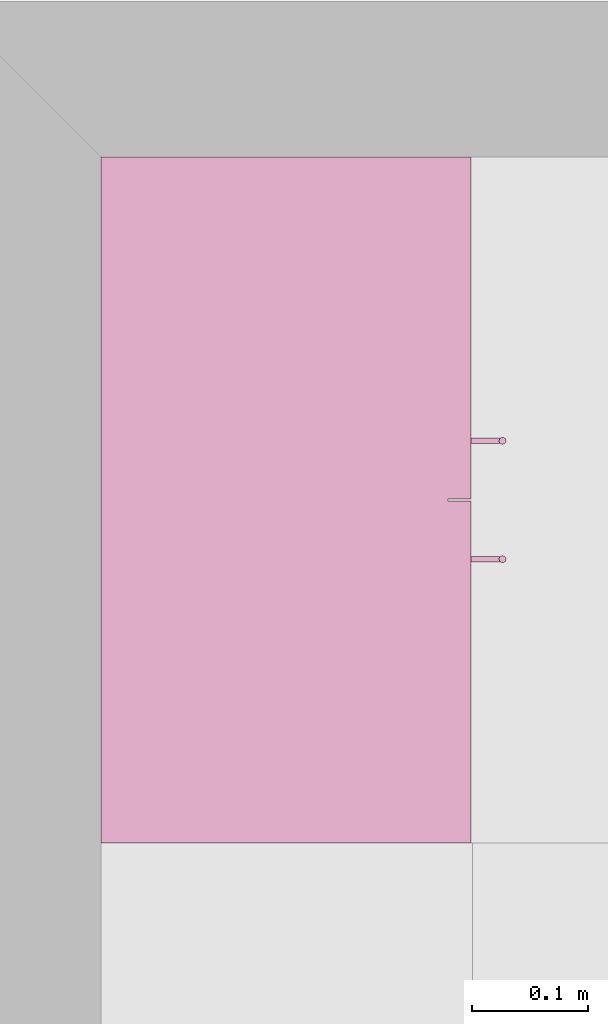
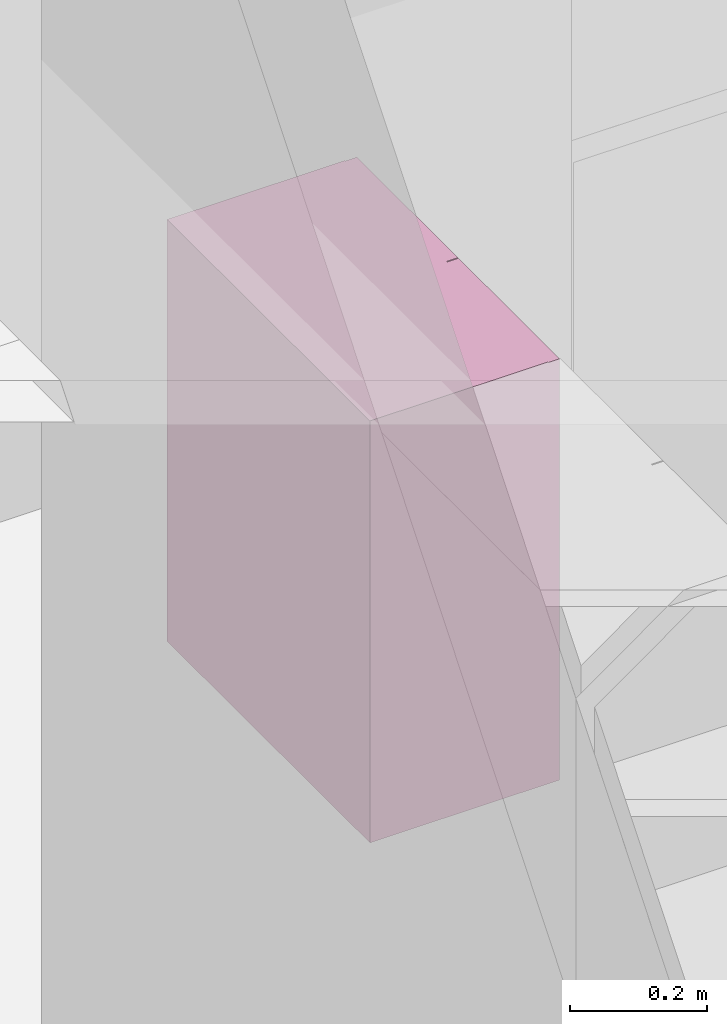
# One storey, part 67 of 68: 1 furnishing.
"""IFC2X3 building model written with IfcOpenShell, lengths in millimetres."""

import ifcopenshell
import ifcopenshell.guid

model = None  # the IFC model being written
_history = None  # IfcOwnerHistory: only IFC2X3 demands one
_inside = {}  # id of a spatial element -> (the spatial element, [elements in it])
_under = {}  # id of a project, library or spatial element -> (it, [spatial elements below it])
_declared = {}  # id of a project -> (the project, [libraries it declares])
_typed = {}  # id of a type object -> (the type object, [elements of that type])
_made_of = {}  # id of a material, layer set ... -> (it, [elements and type objects made of it])


def new_model(schema):
    """Start an empty IFC model of exactly this schema.

    Asked for "IFC4X3", IfcOpenShell would pick the latest addendum, in which some entities
    have other attributes; the version numbers below select the first issue.
    IFC2X3 requires an IfcOwnerHistory on every rooted entity: one is made here for all.
    """
    global model, _history
    if schema == "IFC4X3":
        model = ifcopenshell.file(schema_version=(4, 3, 0, 0))
    else:
        model = ifcopenshell.file(schema=schema)
    _inside.clear()
    _under.clear()
    _declared.clear()
    _typed.clear()
    _made_of.clear()
    _history = None
    if model.schema == "IFC2X3":
        org = make("IfcOrganization", Name="unknown")
        user = make(
            "IfcPersonAndOrganization",
            ThePerson=make("IfcPerson", FamilyName="unknown"),
            TheOrganization=org,
        )
        app = make(
            "IfcApplication",
            ApplicationDeveloper=org,
            Version="unknown",
            ApplicationFullName="unknown",
            ApplicationIdentifier="unknown",
        )
        _history = make(
            "IfcOwnerHistory",
            OwningUser=user,
            OwningApplication=app,
            ChangeAction="ADDED",
            CreationDate=0,
        )
    return model


def make(cls, **values):
    """One entity of the class cls with the attributes given. An attribute that is None is left unset."""
    return model.create_entity(
        cls, **{name: value for name, value in values.items() if value is not None}
    )


def entity(cls, *values):
    """Any entity or typed value of the class cls, its attributes in the order of the schema. None: left unset."""
    e = model.create_entity(cls)
    for i, value in enumerate(values):
        if value is not None:
            e[i] = value
    return e


def rooted(cls, **values):
    """An entity with a GlobalId (a new one), such as an element, a storey or a relation."""
    return make(cls, GlobalId=ifcopenshell.guid.new(), OwnerHistory=_history, **values)


def si_unit(unit_type, name, prefix=None):
    """IfcSIUnit, for example si_unit("LENGTHUNIT", "METRE", prefix="MILLI")."""
    return make("IfcSIUnit", UnitType=unit_type, Prefix=prefix, Name=name)


def converted_unit(unit_type, name, factor, base, dimensions=None, offset=None):
    """IfcConversionBasedUnit, such as the inch: factor (a typed value) times the base unit."""
    return make(
        "IfcConversionBasedUnit"
        if offset is None
        else "IfcConversionBasedUnitWithOffset",
        ConversionOffset=offset,
        Dimensions=None
        if dimensions is None
        else entity("IfcDimensionalExponents", *dimensions),
        UnitType=unit_type,
        Name=name,
        ConversionFactor=make(
            "IfcMeasureWithUnit", ValueComponent=factor, UnitComponent=base
        ),
    )


def derived_unit(unit_type, elements):
    """IfcDerivedUnit: a product of units, each with its exponent."""
    return make(
        "IfcDerivedUnit",
        Elements=[
            make("IfcDerivedUnitElement", Unit=unit, Exponent=power)
            for unit, power in elements
        ],
        UnitType=unit_type,
    )


def money_unit(currency):
    """IfcMonetaryUnit."""
    return make("IfcMonetaryUnit", Currency=currency)


def assignment(units):
    """IfcUnitAssignment: the units of a project."""
    return None if units is None else make("IfcUnitAssignment", Units=units)


def point(xyz):
    """IfcCartesianPoint."""
    return None if xyz is None else make("IfcCartesianPoint", Coordinates=xyz)


def direction(xyz):
    """IfcDirection."""
    return None if xyz is None else make("IfcDirection", DirectionRatios=xyz)


def frame(location, z_axis=None, x_axis=None):
    """IfcAxis2Placement3D, a coordinate frame: its origin and axes. An axis left out is left unset."""
    return make(
        "IfcAxis2Placement3D",
        Location=point(location),
        Axis=direction(z_axis),
        RefDirection=direction(x_axis),
    )


def origin_with_axes():
    """The frame at (0, 0, 0) with the z axis (0, 0, 1) and the x axis (1, 0, 0) written out."""
    return frame((0.0, 0.0, 0.0), z_axis=(0.0, 0.0, 1.0), x_axis=(1.0, 0.0, 0.0))


def place(relative_to, where):
    """IfcLocalPlacement: puts the frame where relative to a parent placement (None: the world)."""
    return make(
        "IfcLocalPlacement", PlacementRelTo=relative_to, RelativePlacement=where
    )


def context(
    kind, dimensions, precision=None, world=None, true_north=None, identifier=None
):
    """IfcGeometricRepresentationContext, for example the 3D "Model" context."""
    return make(
        "IfcGeometricRepresentationContext",
        ContextIdentifier=identifier,
        ContextType=kind,
        CoordinateSpaceDimension=dimensions,
        Precision=precision,
        WorldCoordinateSystem=world,
        TrueNorth=true_north,
    )


def subcontext(parent, identifier, kind, view, scale=None):
    """IfcGeometricRepresentationSubContext, for example "Body" below "Model"."""
    return make(
        "IfcGeometricRepresentationSubContext",
        ContextIdentifier=identifier,
        ContextType=kind,
        ParentContext=parent,
        TargetScale=scale,
        TargetView=view,
    )


def project(units=None, contexts=None):
    """IfcProject with its units and contexts."""
    return rooted(
        "IfcProject",
        Name="project",
        RepresentationContexts=contexts,
        UnitsInContext=assignment(units),
    )


def spatial(cls, under=None, at=None, **own):
    """A site, building, storey or space (cls), placed at a placement, below another one or the project."""
    s = rooted(cls, ObjectPlacement=at, **own)
    if under is not None:
        _under.setdefault(under.id(), (under, []))[1].append(s)
    return s


def faces_of(points, faces, orient=None, outer=None):
    """IfcFace entities. A face is a list of loops; a loop is a list of indices into points, from 0.

    orient and outer hold one flag for each loop. By default every Orientation is true, the
    first loop of a face is its IfcFaceOuterBound and the others are IfcFaceBound.
    """
    made = []
    for i, loops in enumerate(faces):
        bounds = []
        for j, loop in enumerate(loops):
            is_outer = j == 0 if outer is None else outer[i][j]
            bounds.append(
                make(
                    "IfcFaceOuterBound" if is_outer else "IfcFaceBound",
                    Bound=make("IfcPolyLoop", Polygon=[points[k] for k in loop]),
                    Orientation=True if orient is None else orient[i][j],
                )
            )
        made.append(make("IfcFace", Bounds=bounds))
    return made


def open_shell(faces, orient=None, outer=None):
    """The faces of one IfcOpenShell. surface_model builds it on its shared points."""
    return ("IfcOpenShell", faces, orient, outer)


def faceted_brep(points, faces, orient=None, outer=None, voids=None):
    """IfcFacetedBrep: a solid bounded by flat faces; with voids (closed shells), ...WithVoids."""
    shared = [point(p) for p in points]
    hull = make("IfcClosedShell", CfsFaces=faces_of(shared, faces, orient, outer))
    if voids is None:
        return make("IfcFacetedBrep", Outer=hull)
    return make(
        "IfcFacetedBrepWithVoids",
        Outer=hull,
        Voids=[
            make(cls, CfsFaces=faces_of(shared, fs, o, b)) for cls, fs, o, b in voids
        ],
    )


def surface_model(cls, points, shells):
    """IfcFaceBasedSurfaceModel or IfcShellBasedSurfaceModel (cls): surfaces that need not close."""
    shared = [point(p) for p in points]
    made = [make(c, CfsFaces=faces_of(shared, fs, o, b)) for c, fs, o, b in shells]
    if cls == "IfcFaceBasedSurfaceModel":
        return make(cls, FbsmFaces=made)
    return make(cls, SbsmBoundary=made)


def shape(context_of_items, identifier, shape_type, items):
    """IfcShapeRepresentation: the items that make up one representation, for example the "Body"."""
    return make(
        "IfcShapeRepresentation",
        ContextOfItems=context_of_items,
        RepresentationIdentifier=identifier,
        RepresentationType=shape_type,
        Items=items,
    )


def made_of(thing, what):
    """Note that an element or type object is made of a material, layer set ...; save() writes the relation."""
    if what is not None:
        _made_of.setdefault(what.id(), (what, []))[1].append(thing)
    return thing


def type_object(cls, material=None, **own):
    """A type object (cls), such as IfcWallType, which elements share."""
    return made_of(rooted(cls, **own), material)


def element(
    cls,
    number,
    at=None,
    inside=None,
    cuts=None,
    type_object=None,
    material=None,
    context=None,
    identifier="Body",
    shape_type=None,
    held_by="IfcProductDefinitionShape",
    body=None,
    shapes=None,
    **own,
):
    """One element of the class cls, such as IfcWall. Its Tag is "e" and its number.

    at: its placement. inside: the storey or other place that contains it. cuts: it is an
    opening in that element (IfcRelVoidsElement). A single representation is given by context,
    identifier, shape_type and body (its items); several are given by shapes. held_by: the class
    of the entity that holds the representations. save() writes the other relations.
    """
    e = rooted(cls, Tag="e%d" % number, ObjectPlacement=at, **own)
    if body is not None:
        shapes = [shape(context, identifier, shape_type, body)]
    if shapes is not None:
        e.Representation = make(held_by, Representations=shapes)
    if inside is not None:
        _inside.setdefault(inside.id(), (inside, []))[1].append(e)
    if cuts is not None:
        rooted(
            "IfcRelVoidsElement", RelatingBuildingElement=cuts, RelatedOpeningElement=e
        )
    if type_object is not None:
        _typed.setdefault(type_object.id(), (type_object, []))[1].append(e)
    return made_of(e, material)


def aggregate(whole, parts):
    """IfcRelAggregates: a whole, such as a stair, and the parts it consists of."""
    return rooted("IfcRelAggregates", RelatingObject=whole, RelatedObjects=parts)


def save(model, path):
    """Write the relations noted so far, then the file.

    IfcRelAggregates (storeys below a building ...), IfcRelContainedInSpatialStructure (elements
    in a storey), IfcRelDefinesByType, IfcRelAssociatesMaterial and IfcRelDeclares: one each for
    every whole, place, type object, material and project.
    """
    for whole, parts in _under.values():
        aggregate(whole, parts)
    for where, things in _inside.values():
        rooted(
            "IfcRelContainedInSpatialStructure",
            RelatedElements=things,
            RelatingStructure=where,
        )
    for kind, things in _typed.values():
        rooted("IfcRelDefinesByType", RelatedObjects=things, RelatingType=kind)
    for what, things in _made_of.values():
        rooted("IfcRelAssociatesMaterial", RelatedObjects=things, RelatingMaterial=what)
    for by, libraries in _declared.values():
        rooted("IfcRelDeclares", RelatingContext=by, RelatedDefinitions=libraries)
    model.write(path)


model = new_model("IFC2X3")

# Units and contexts
model_context = context("Model", 3, precision=0.01, world=origin_with_axes(), true_north=direction((0.0, 1.0)))
body_context = subcontext(model_context, "Body", "Model", "MODEL_VIEW")
ifc_project = project(units=[si_unit("LENGTHUNIT", "METRE", prefix="MILLI"), si_unit("AREAUNIT", "SQUARE_METRE"), si_unit("VOLUMEUNIT", "CUBIC_METRE"), converted_unit("PLANEANGLEUNIT", "DEGREE", entity("IfcPlaneAngleMeasure", 0.0174532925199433), si_unit("PLANEANGLEUNIT", "RADIAN"), dimensions=[0, 0, 0, 0, 0, 0, 0]), money_unit("USD"), converted_unit("TIMEUNIT", "Year", entity("IfcTimeMeasure", 31557600.0), si_unit("TIMEUNIT", "SECOND"), dimensions=[0, 0, 1, 0, 0, 0, 0]), si_unit("MASSUNIT", "GRAM", prefix="KILO"), si_unit("THERMODYNAMICTEMPERATUREUNIT", "DEGREE_CELSIUS"), si_unit("LUMINOUSINTENSITYUNIT", "LUMEN"), si_unit("ENERGYUNIT", "JOULE", prefix="MEGA"), derived_unit("THERMALCONDUCTANCEUNIT", [(si_unit("POWERUNIT", "WATT"), 1), (si_unit("LENGTHUNIT", "METRE"), -1), (si_unit("THERMODYNAMICTEMPERATUREUNIT", "KELVIN"), -1)]), derived_unit("SPECIFICHEATCAPACITYUNIT", [(si_unit("ENERGYUNIT", "JOULE"), 1), (si_unit("MASSUNIT", "GRAM", prefix="KILO"), -1), (si_unit("THERMODYNAMICTEMPERATUREUNIT", "KELVIN"), -1)]), derived_unit("MASSDENSITYUNIT", [(si_unit("MASSUNIT", "GRAM", prefix="KILO"), 1), (si_unit("VOLUMEUNIT", "CUBIC_METRE"), -1)])], contexts=[model_context])

# Site, building, storey
site_placement = place(None, origin_with_axes())
site = spatial("IfcSite", under=ifc_project, at=site_placement, Name="Sitio", CompositionType="ELEMENT")
building_placement = place(site_placement, origin_with_axes())
building = spatial("IfcBuilding", under=site, at=building_placement, Name="Construcción", CompositionType="ELEMENT")
storey_placement = place(building_placement, origin_with_axes())
storey = spatial("IfcBuildingStorey", under=building, at=storey_placement, Name="PLANTA 1ª", CompositionType="ELEMENT", Elevation=0.0)

# Furnishing
furnishing_element_type = type_object("IfcFurnishingElementType", Name="Armario Mural 2P 10")
furnishing_placement = place(storey_placement, frame((823.8910778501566, 976.0243409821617, 1500.0), z_axis=(0.0, 0.0, 1.0), x_axis=(0.0, 1.0, 0.0)))
element("IfcFurnishingElement", 1, at=furnishing_placement, inside=storey, type_object=furnishing_element_type, Name="60.20.66 Armari", context=body_context, shape_type="SurfaceModel", body=[
    faceted_brep([(0.0, 0.0, 730.0), (20.0, 0.0, 730.0), (20.0, 0.0, 750.0), (0.0, 0.0, 750.0), (0.0, 298.9999999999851, 730.0), (20.0, 298.9999999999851, 730.0), (570.8287149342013, 298.9999999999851, 730.0), (590.8287149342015, 298.9999999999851, 730.0), (590.8287149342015, 0.0, 730.0), (570.8287149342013, 0.0, 730.0), (570.8287149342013, 0.0, 750.0), (590.8287149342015, 0.0, 750.0), (590.8287149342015, 298.9999999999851, 750.0), (570.8287149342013, 298.9999999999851, 750.0), (20.0, 298.9999999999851, 750.0), (0.0, 298.9999999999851, 750.0)], [[[0, 1, 2, 3]], [[0, 4, 5, 6, 7, 8, 9, 1]], [[1, 9, 10, 2]], [[3, 2, 10, 11, 12, 13, 14, 15]], [[4, 0, 3, 15]], [[5, 4, 15, 14]], [[6, 5, 14, 13]], [[7, 6, 13, 12]], [[8, 7, 12, 11]], [[9, 8, 11, 10]]]),
    faceted_brep([(0.0, 0.0, 0.0), (20.0, 0.0, 0.0), (20.0, 0.0, 20.0), (0.0, 0.0, 20.0), (0.0, 298.9999999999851, 0.0), (20.0, 298.9999999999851, 0.0), (570.8287149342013, 298.9999999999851, 0.0), (590.8287149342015, 298.9999999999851, 0.0), (590.8287149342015, 0.0, 0.0), (570.8287149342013, 0.0, 0.0), (570.8287149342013, 0.0, 20.0), (590.8287149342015, 0.0, 20.0), (590.8287149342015, 298.9999999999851, 20.0), (570.8287149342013, 298.9999999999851, 20.0), (20.0, 298.9999999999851, 20.0), (0.0, 298.9999999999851, 20.0)], [[[0, 1, 2, 3]], [[0, 4, 5, 6, 7, 8, 9, 1]], [[1, 9, 10, 2]], [[3, 2, 10, 11, 12, 13, 14, 15]], [[4, 0, 3, 15]], [[5, 4, 15, 14]], [[6, 5, 14, 13]], [[7, 6, 13, 12]], [[8, 7, 12, 11]], [[9, 8, 11, 10]]]),
    faceted_brep([(0.0, 0.0, 20.0), (20.0, 0.0, 20.0), (20.0, 0.0, 730.0), (0.0, 0.0, 730.0), (0.0, 298.9999999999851, 20.0), (590.8287149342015, 298.9999999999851, 20.0), (590.8287149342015, 0.0, 20.0), (570.8287149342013, 0.0, 20.0), (570.8287149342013, 278.9999999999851, 20.0), (20.0, 278.9999999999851, 20.0), (20.0, 278.9999999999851, 730.0), (570.8287149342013, 278.9999999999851, 730.0), (570.8287149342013, 0.0, 730.0), (590.8287149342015, 0.0, 730.0), (590.8287149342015, 298.9999999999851, 730.0), (0.0, 298.9999999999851, 730.0)], [[[0, 1, 2, 3]], [[0, 4, 5, 6, 7, 8, 9, 1]], [[1, 9, 10, 2]], [[3, 2, 10, 11, 12, 13, 14, 15]], [[4, 0, 3, 15]], [[5, 4, 15, 14]], [[6, 5, 14, 13]], [[7, 6, 13, 12]], [[8, 7, 12, 11]], [[9, 8, 11, 10]]]),
    faceted_brep([(570.8287149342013, 0.0, 230.0), (570.8287149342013, 278.9999999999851, 230.0), (570.8287149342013, 278.9999999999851, 250.0), (570.8287149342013, 0.0, 250.0), (20.0, 0.0, 230.0), (20.0, 278.9999999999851, 230.0), (20.0, 278.9999999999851, 250.0), (20.0, 0.0, 250.0)], [[[0, 1, 2, 3]], [[0, 4, 5, 1]], [[1, 5, 6, 2]], [[3, 2, 6, 7]], [[4, 0, 3, 7]], [[5, 4, 7, 6]]]),
    faceted_brep([(570.8287149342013, 0.0, 480.0), (570.8287149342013, 278.9999999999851, 480.0), (570.8287149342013, 278.9999999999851, 500.0), (570.8287149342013, 0.0, 500.0), (20.0, 0.0, 480.0), (20.0, 278.9999999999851, 480.0), (20.0, 278.9999999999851, 500.0), (20.0, 0.0, 500.0)], [[[0, 1, 2, 3]], [[0, 4, 5, 1]], [[1, 5, 6, 2]], [[3, 2, 6, 7]], [[4, 0, 3, 7]], [[5, 4, 7, 6]]]),
    faceted_brep([(0.0, 0.0, 0.0), (294.4143574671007, 0.0, 0.0), (294.4143574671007, -20.0, 0.0), (0.0, -20.0, 0.0), (0.0, 0.0, 749.0), (294.4143574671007, 0.0, 749.0), (294.4143574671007, -19.99999999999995, 749.0), (0.0, -19.99999999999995, 749.0)], [[[0, 1, 2, 3]], [[0, 4, 5, 1]], [[1, 5, 6, 2]], [[3, 2, 6, 7]], [[4, 0, 3, 7]], [[5, 4, 7, 6]]]),
    faceted_brep([(247.3121349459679, -47.77645713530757, 50.00000000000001), (247.012433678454, -48.50000000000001, 50.00000000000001), (246.5356778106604, -49.12132034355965, 50.00000000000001), (245.9143574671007, -49.59807621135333, 50.00000000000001), (245.1908146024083, -49.89777747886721, 50.00000000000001), (244.4143574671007, -50.00000000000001, 50.00000000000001), (243.6379003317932, -49.89777747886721, 50.00000000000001), (242.9143574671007, -49.59807621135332, 50.00000000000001), (242.2930371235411, -49.12132034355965, 50.00000000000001), (241.8162812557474, -48.50000000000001, 50.00000000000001), (241.5165799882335, -47.77645713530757, 50.00000000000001), (241.4143574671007, -47.00000000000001, 50.00000000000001), (241.5165799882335, -46.22354286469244, 50.00000000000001), (241.8162812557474, -45.50000000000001, 50.00000000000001), (242.2930371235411, -44.87867965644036, 50.00000000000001), (242.9143574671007, -44.40192378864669, 50.00000000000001), (243.6379003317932, -44.1022225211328, 50.00000000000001), (244.4143574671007, -44.00000000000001, 50.00000000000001), (245.1908146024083, -44.1022225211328, 50.00000000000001), (245.9143574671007, -44.40192378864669, 50.00000000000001), (246.5356778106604, -44.87867965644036, 50.00000000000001), (247.012433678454, -45.50000000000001, 50.00000000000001), (247.3121349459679, -46.22354286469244, 50.00000000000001), (247.4143574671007, -47.00000000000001, 50.00000000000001), (247.3121349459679, -47.77645713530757, 150.0), (247.012433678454, -48.50000000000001, 150.0), (246.5356778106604, -49.12132034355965, 150.0), (245.9143574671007, -49.59807621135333, 150.0), (245.1908146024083, -49.89777747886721, 150.0), (244.4143574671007, -50.00000000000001, 150.0), (243.6379003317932, -49.89777747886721, 150.0), (242.9143574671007, -49.59807621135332, 150.0), (242.2930371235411, -49.12132034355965, 150.0), (241.8162812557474, -48.50000000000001, 150.0), (241.5165799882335, -47.77645713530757, 150.0), (241.4143574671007, -47.00000000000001, 150.0), (241.5165799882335, -46.22354286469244, 150.0), (241.8162812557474, -45.50000000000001, 150.0), (242.2930371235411, -44.87867965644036, 150.0), (242.9143574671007, -44.40192378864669, 150.0), (243.6379003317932, -44.1022225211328, 150.0), (244.4143574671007, -44.00000000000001, 150.0), (245.1908146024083, -44.1022225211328, 150.0), (245.9143574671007, -44.40192378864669, 150.0), (246.5356778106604, -44.87867965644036, 150.0), (247.012433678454, -45.50000000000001, 150.0), (247.3121349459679, -46.22354286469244, 150.0), (247.4143574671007, -47.00000000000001, 150.0)], [[[0, 1, 2, 3, 4, 5, 6, 7, 8, 9, 10, 11, 12, 13, 14, 15, 16, 17, 18, 19, 20, 21, 22, 23]], [[1, 0, 24, 25]], [[2, 1, 25, 26]], [[3, 2, 26, 27]], [[4, 3, 27, 28]], [[5, 4, 28, 29]], [[6, 5, 29, 30]], [[7, 6, 30, 31]], [[8, 7, 31, 32]], [[9, 8, 32, 33]], [[10, 9, 33, 34]], [[11, 10, 34, 35]], [[12, 11, 35, 36]], [[13, 12, 36, 37]], [[14, 13, 37, 38]], [[15, 14, 38, 39]], [[16, 15, 39, 40]], [[17, 16, 40, 41]], [[18, 17, 41, 42]], [[19, 18, 42, 43]], [[20, 19, 43, 44]], [[21, 20, 44, 45]], [[22, 21, 45, 46]], [[23, 22, 46, 47]], [[0, 23, 47, 24]], [[24, 47, 46, 45, 44, 43, 42, 41, 40, 39, 38, 37, 36, 35, 34, 33, 32, 31, 30, 29, 28, 27, 26, 25]]]),
    surface_model("IfcShellBasedSurfaceModel", [(245.061405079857, -44.07060938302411, 72.58518543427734), (244.4143574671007, -44.0, 72.50000000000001), (244.4143574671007, -20.0, 72.50000000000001), (245.061405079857, -20.0, 72.58518543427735), (243.7673098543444, -44.07060938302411, 72.58518543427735), (243.7673098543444, -20.0, 72.58518543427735), (243.1643574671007, -20.0, 72.83493649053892), (242.6465905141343, -20.0, 73.23223304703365), (242.2492939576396, -20.0, 73.75000000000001), (241.999542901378, -20.0, 74.3529523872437), (241.9143574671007, -20.0, 75.00000000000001), (241.999542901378, -20.0, 75.64704761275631), (242.2492939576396, -20.0, 76.25000000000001), (242.6465905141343, -20.0, 76.76776695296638), (243.1643574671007, -20.0, 77.1650635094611), (243.7673098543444, -20.0, 77.4148145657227), (244.4143574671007, -20.0, 77.50000000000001), (245.061405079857, -20.0, 77.4148145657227), (245.6643574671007, -20.0, 77.1650635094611), (246.1821244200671, -20.0, 76.76776695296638), (246.5794209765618, -20.0, 76.25000000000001), (246.8291720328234, -20.0, 75.64704761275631), (246.9143574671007, -20.0, 75.00000000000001), (246.8291720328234, -20.0, 74.3529523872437), (246.5794209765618, -20.0, 73.75000000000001), (246.1821244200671, -20.0, 73.23223304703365), (245.6643574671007, -20.0, 72.83493649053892), (245.6643574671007, -44.27282197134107, 72.83493649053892), (243.1643574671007, -44.27282197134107, 72.83493649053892), (242.6465905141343, -44.57616007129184, 73.23223304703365), (242.2492939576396, -44.92334403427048, 73.75000000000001), (241.999542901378, -45.21992398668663, 74.3529523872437), (241.9143574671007, -45.3416876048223, 75.00000000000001), (241.999542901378, -45.21992398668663, 75.64704761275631), (242.2492939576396, -44.92334403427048, 76.25000000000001), (242.6465905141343, -44.57616007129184, 76.76776695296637), (243.1643574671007, -44.27282197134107, 77.1650635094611), (243.7673098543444, -44.07060938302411, 77.41481456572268), (244.4143574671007, -44.0, 77.50000000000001), (245.061405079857, -44.07060938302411, 77.4148145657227), (245.6643574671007, -44.27282197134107, 77.1650635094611), (246.1821244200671, -44.57616007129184, 76.76776695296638), (246.5794209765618, -44.92334403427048, 76.25000000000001), (246.8291720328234, -45.21992398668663, 75.64704761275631), (246.9143574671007, -45.3416876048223, 75.00000000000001), (246.8291720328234, -45.21992398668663, 74.3529523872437), (246.5794209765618, -44.92334403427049, 73.75000000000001), (246.1821244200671, -44.57616007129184, 73.23223304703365)], [open_shell([[[0, 1, 2, 3]], [[1, 4, 5, 2]], [[3, 2, 5, 6, 7, 8, 9, 10, 11, 12, 13, 14, 15, 16, 17, 18, 19, 20, 21, 22, 23, 24, 25, 26]], [[27, 0, 3, 26]], [[4, 28, 6, 5]], [[28, 29, 7, 6]], [[29, 30, 8, 7]], [[30, 31, 9, 8]], [[31, 32, 10, 9]], [[32, 33, 11, 10]], [[33, 34, 12, 11]], [[34, 35, 13, 12]], [[35, 36, 14, 13]], [[36, 37, 15, 14]], [[37, 38, 16, 15]], [[38, 39, 17, 16]], [[39, 40, 18, 17]], [[40, 41, 19, 18]], [[41, 42, 20, 19]], [[42, 43, 21, 20]], [[43, 44, 22, 21]], [[44, 45, 23, 22]], [[45, 46, 24, 23]], [[46, 47, 25, 24]], [[47, 27, 26, 25]]])]),
    surface_model("IfcShellBasedSurfaceModel", [(245.061405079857, -44.07060938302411, 122.5851854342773), (244.4143574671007, -44.0, 122.5), (244.4143574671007, -20.0, 122.5), (245.061405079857, -20.0, 122.5851854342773), (243.7673098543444, -44.07060938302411, 122.5851854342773), (243.7673098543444, -20.0, 122.5851854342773), (243.1643574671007, -20.0, 122.8349364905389), (242.6465905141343, -20.0, 123.2322330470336), (242.2492939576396, -20.0, 123.75), (241.999542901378, -20.0, 124.3529523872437), (241.9143574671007, -20.0, 125.0), (241.999542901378, -20.0, 125.6470476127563), (242.2492939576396, -20.0, 126.25), (242.6465905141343, -20.0, 126.7677669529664), (243.1643574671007, -20.0, 127.1650635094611), (243.7673098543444, -20.0, 127.4148145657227), (244.4143574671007, -20.0, 127.5), (245.061405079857, -20.0, 127.4148145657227), (245.6643574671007, -20.0, 127.1650635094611), (246.1821244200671, -20.0, 126.7677669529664), (246.5794209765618, -20.0, 126.25), (246.8291720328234, -20.0, 125.6470476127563), (246.9143574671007, -20.0, 125.0), (246.8291720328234, -20.0, 124.3529523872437), (246.5794209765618, -20.0, 123.75), (246.1821244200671, -20.0, 123.2322330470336), (245.6643574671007, -20.0, 122.8349364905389), (245.6643574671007, -44.27282197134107, 122.8349364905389), (243.1643574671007, -44.27282197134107, 122.8349364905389), (242.6465905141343, -44.57616007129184, 123.2322330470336), (242.2492939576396, -44.92334403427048, 123.75), (241.999542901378, -45.21992398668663, 124.3529523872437), (241.9143574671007, -45.3416876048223, 125.0), (241.999542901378, -45.21992398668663, 125.6470476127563), (242.2492939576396, -44.92334403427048, 126.25), (242.6465905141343, -44.57616007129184, 126.7677669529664), (243.1643574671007, -44.27282197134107, 127.1650635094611), (243.7673098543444, -44.07060938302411, 127.4148145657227), (244.4143574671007, -44.0, 127.5), (245.061405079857, -44.07060938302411, 127.4148145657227), (245.6643574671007, -44.27282197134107, 127.1650635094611), (246.1821244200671, -44.57616007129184, 126.7677669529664), (246.5794209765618, -44.92334403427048, 126.25), (246.8291720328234, -45.21992398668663, 125.6470476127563), (246.9143574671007, -45.3416876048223, 125.0), (246.8291720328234, -45.21992398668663, 124.3529523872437), (246.5794209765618, -44.92334403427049, 123.75), (246.1821244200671, -44.57616007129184, 123.2322330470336)], [open_shell([[[0, 1, 2, 3]], [[1, 4, 5, 2]], [[3, 2, 5, 6, 7, 8, 9, 10, 11, 12, 13, 14, 15, 16, 17, 18, 19, 20, 21, 22, 23, 24, 25, 26]], [[27, 0, 3, 26]], [[4, 28, 6, 5]], [[28, 29, 7, 6]], [[29, 30, 8, 7]], [[30, 31, 9, 8]], [[31, 32, 10, 9]], [[32, 33, 11, 10]], [[33, 34, 12, 11]], [[34, 35, 13, 12]], [[35, 36, 14, 13]], [[36, 37, 15, 14]], [[37, 38, 16, 15]], [[38, 39, 17, 16]], [[39, 40, 18, 17]], [[40, 41, 19, 18]], [[41, 42, 20, 19]], [[42, 43, 21, 20]], [[43, 44, 22, 21]], [[44, 45, 23, 22]], [[45, 46, 24, 23]], [[46, 47, 25, 24]], [[47, 27, 26, 25]]])]),
    faceted_brep([(590.8287149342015, 0.0, 0.0), (590.8287149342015, -20.0, 0.0), (296.4143574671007, -20.0, 0.0), (296.4143574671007, 0.0, 0.0), (590.8287149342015, 0.0, 749.0), (590.8287149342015, -19.99999999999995, 749.0), (296.4143574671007, -19.99999999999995, 749.0), (296.4143574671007, 0.0, 749.0)], [[[0, 1, 2, 3]], [[4, 5, 1, 0]], [[1, 5, 6, 2]], [[3, 2, 6, 7]], [[0, 3, 7, 4]], [[7, 6, 5, 4]]]),
    faceted_brep([(343.5165799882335, -47.77645713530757, 50.00000000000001), (343.4143574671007, -47.00000000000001, 50.00000000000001), (343.5165799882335, -46.22354286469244, 50.00000000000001), (343.8162812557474, -45.50000000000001, 50.00000000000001), (344.293037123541, -44.87867965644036, 50.00000000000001), (344.9143574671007, -44.40192378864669, 50.00000000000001), (345.6379003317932, -44.1022225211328, 50.00000000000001), (346.4143574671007, -44.00000000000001, 50.00000000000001), (347.1908146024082, -44.1022225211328, 50.00000000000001), (347.9143574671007, -44.40192378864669, 50.00000000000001), (348.5356778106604, -44.87867965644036, 50.00000000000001), (349.012433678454, -45.50000000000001, 50.00000000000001), (349.3121349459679, -46.22354286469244, 50.00000000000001), (349.4143574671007, -47.00000000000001, 50.00000000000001), (349.3121349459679, -47.77645713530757, 50.00000000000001), (349.012433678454, -48.50000000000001, 50.00000000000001), (348.5356778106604, -49.12132034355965, 50.00000000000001), (347.9143574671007, -49.59807621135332, 50.00000000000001), (347.1908146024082, -49.89777747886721, 50.00000000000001), (346.4143574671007, -50.00000000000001, 50.00000000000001), (345.6379003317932, -49.89777747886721, 50.00000000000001), (344.9143574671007, -49.59807621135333, 50.00000000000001), (344.293037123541, -49.12132034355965, 50.00000000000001), (343.8162812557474, -48.50000000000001, 50.00000000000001), (343.5165799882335, -47.77645713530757, 150.0), (343.4143574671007, -47.00000000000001, 150.0), (343.5165799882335, -46.22354286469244, 150.0), (343.8162812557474, -45.50000000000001, 150.0), (344.293037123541, -44.87867965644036, 150.0), (344.9143574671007, -44.40192378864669, 150.0), (345.6379003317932, -44.1022225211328, 150.0), (346.4143574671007, -44.00000000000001, 150.0), (347.1908146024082, -44.1022225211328, 150.0), (347.9143574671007, -44.40192378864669, 150.0), (348.5356778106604, -44.87867965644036, 150.0), (349.012433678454, -45.50000000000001, 150.0), (349.3121349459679, -46.22354286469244, 150.0), (349.4143574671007, -47.00000000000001, 150.0), (349.3121349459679, -47.77645713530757, 150.0), (349.012433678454, -48.50000000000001, 150.0), (348.5356778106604, -49.12132034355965, 150.0), (347.9143574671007, -49.59807621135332, 150.0), (347.1908146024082, -49.89777747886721, 150.0), (346.4143574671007, -50.00000000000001, 150.0), (345.6379003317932, -49.89777747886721, 150.0), (344.9143574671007, -49.59807621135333, 150.0), (344.293037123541, -49.12132034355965, 150.0), (343.8162812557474, -48.50000000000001, 150.0)], [[[0, 1, 2, 3, 4, 5, 6, 7, 8, 9, 10, 11, 12, 13, 14, 15, 16, 17, 18, 19, 20, 21, 22, 23]], [[0, 24, 25, 1]], [[1, 25, 26, 2]], [[2, 26, 27, 3]], [[3, 27, 28, 4]], [[4, 28, 29, 5]], [[5, 29, 30, 6]], [[6, 30, 31, 7]], [[7, 31, 32, 8]], [[8, 32, 33, 9]], [[9, 33, 34, 10]], [[10, 34, 35, 11]], [[11, 35, 36, 12]], [[12, 36, 37, 13]], [[13, 37, 38, 14]], [[14, 38, 39, 15]], [[15, 39, 40, 16]], [[16, 40, 41, 17]], [[17, 41, 42, 18]], [[18, 42, 43, 19]], [[19, 43, 44, 20]], [[20, 44, 45, 21]], [[21, 45, 46, 22]], [[22, 46, 47, 23]], [[23, 47, 24, 0]], [[24, 47, 46, 45, 44, 43, 42, 41, 40, 39, 38, 37, 36, 35, 34, 33, 32, 31, 30, 29, 28, 27, 26, 25]]]),
    surface_model("IfcShellBasedSurfaceModel", [(345.7673098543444, -44.07060938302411, 72.58518543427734), (345.7673098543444, -20.0, 72.58518543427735), (346.4143574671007, -20.0, 72.50000000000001), (346.4143574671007, -44.0, 72.50000000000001), (345.1643574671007, -44.27282197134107, 72.83493649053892), (345.1643574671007, -20.0, 72.83493649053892), (344.6465905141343, -20.0, 73.23223304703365), (344.2492939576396, -20.0, 73.75000000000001), (343.999542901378, -20.0, 74.3529523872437), (343.9143574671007, -20.0, 75.00000000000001), (343.999542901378, -20.0, 75.64704761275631), (344.2492939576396, -20.0, 76.25000000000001), (344.6465905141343, -20.0, 76.76776695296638), (345.1643574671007, -20.0, 77.1650635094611), (345.7673098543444, -20.0, 77.4148145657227), (346.4143574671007, -20.0, 77.50000000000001), (347.061405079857, -20.0, 77.4148145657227), (347.6643574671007, -20.0, 77.1650635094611), (348.1821244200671, -20.0, 76.76776695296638), (348.5794209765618, -20.0, 76.25000000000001), (348.8291720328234, -20.0, 75.64704761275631), (348.9143574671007, -20.0, 75.00000000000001), (348.8291720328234, -20.0, 74.3529523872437), (348.5794209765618, -20.0, 73.75000000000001), (348.1821244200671, -20.0, 73.23223304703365), (347.6643574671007, -20.0, 72.83493649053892), (347.061405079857, -20.0, 72.58518543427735), (347.061405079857, -44.07060938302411, 72.58518543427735), (344.6465905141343, -44.57616007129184, 73.23223304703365), (344.2492939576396, -44.92334403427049, 73.75000000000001), (343.999542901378, -45.21992398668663, 74.3529523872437), (343.9143574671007, -45.3416876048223, 75.00000000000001), (343.999542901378, -45.21992398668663, 75.64704761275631), (344.2492939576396, -44.92334403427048, 76.25000000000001), (344.6465905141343, -44.57616007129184, 76.76776695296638), (345.1643574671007, -44.27282197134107, 77.1650635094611), (345.7673098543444, -44.07060938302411, 77.4148145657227), (346.4143574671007, -44.0, 77.50000000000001), (347.061405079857, -44.07060938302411, 77.41481456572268), (347.6643574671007, -44.27282197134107, 77.1650635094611), (348.1821244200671, -44.57616007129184, 76.76776695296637), (348.5794209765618, -44.92334403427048, 76.25000000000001), (348.8291720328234, -45.21992398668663, 75.64704761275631), (348.9143574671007, -45.3416876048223, 75.00000000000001), (348.8291720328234, -45.21992398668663, 74.3529523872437), (348.5794209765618, -44.92334403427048, 73.75000000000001), (348.1821244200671, -44.57616007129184, 73.23223304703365), (347.6643574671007, -44.27282197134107, 72.83493649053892)], [open_shell([[[0, 1, 2, 3]], [[4, 5, 1, 0]], [[1, 5, 6, 7, 8, 9, 10, 11, 12, 13, 14, 15, 16, 17, 18, 19, 20, 21, 22, 23, 24, 25, 26, 2]], [[3, 2, 26, 27]], [[28, 6, 5, 4]], [[29, 7, 6, 28]], [[30, 8, 7, 29]], [[31, 9, 8, 30]], [[32, 10, 9, 31]], [[33, 11, 10, 32]], [[34, 12, 11, 33]], [[35, 13, 12, 34]], [[36, 14, 13, 35]], [[37, 15, 14, 36]], [[38, 16, 15, 37]], [[39, 17, 16, 38]], [[40, 18, 17, 39]], [[41, 19, 18, 40]], [[42, 20, 19, 41]], [[43, 21, 20, 42]], [[44, 22, 21, 43]], [[45, 23, 22, 44]], [[46, 24, 23, 45]], [[47, 25, 24, 46]], [[27, 26, 25, 47]]])]),
    surface_model("IfcShellBasedSurfaceModel", [(345.7673098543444, -44.07060938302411, 122.5851854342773), (345.7673098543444, -20.0, 122.5851854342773), (346.4143574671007, -20.0, 122.5), (346.4143574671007, -44.0, 122.5), (345.1643574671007, -44.27282197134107, 122.8349364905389), (345.1643574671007, -20.0, 122.8349364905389), (344.6465905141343, -20.0, 123.2322330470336), (344.2492939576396, -20.0, 123.75), (343.999542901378, -20.0, 124.3529523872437), (343.9143574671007, -20.0, 125.0), (343.999542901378, -20.0, 125.6470476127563), (344.2492939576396, -20.0, 126.25), (344.6465905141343, -20.0, 126.7677669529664), (345.1643574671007, -20.0, 127.1650635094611), (345.7673098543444, -20.0, 127.4148145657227), (346.4143574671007, -20.0, 127.5), (347.061405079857, -20.0, 127.4148145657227), (347.6643574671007, -20.0, 127.1650635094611), (348.1821244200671, -20.0, 126.7677669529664), (348.5794209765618, -20.0, 126.25), (348.8291720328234, -20.0, 125.6470476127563), (348.9143574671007, -20.0, 125.0), (348.8291720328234, -20.0, 124.3529523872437), (348.5794209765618, -20.0, 123.75), (348.1821244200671, -20.0, 123.2322330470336), (347.6643574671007, -20.0, 122.8349364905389), (347.061405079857, -20.0, 122.5851854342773), (347.061405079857, -44.07060938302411, 122.5851854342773), (344.6465905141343, -44.57616007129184, 123.2322330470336), (344.2492939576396, -44.92334403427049, 123.75), (343.999542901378, -45.21992398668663, 124.3529523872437), (343.9143574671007, -45.3416876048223, 125.0), (343.999542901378, -45.21992398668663, 125.6470476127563), (344.2492939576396, -44.92334403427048, 126.25), (344.6465905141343, -44.57616007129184, 126.7677669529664), (345.1643574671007, -44.27282197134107, 127.1650635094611), (345.7673098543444, -44.07060938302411, 127.4148145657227), (346.4143574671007, -44.0, 127.5), (347.061405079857, -44.07060938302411, 127.4148145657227), (347.6643574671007, -44.27282197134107, 127.1650635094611), (348.1821244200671, -44.57616007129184, 126.7677669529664), (348.5794209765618, -44.92334403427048, 126.25), (348.8291720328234, -45.21992398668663, 125.6470476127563), (348.9143574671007, -45.3416876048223, 125.0), (348.8291720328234, -45.21992398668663, 124.3529523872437), (348.5794209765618, -44.92334403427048, 123.75), (348.1821244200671, -44.57616007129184, 123.2322330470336), (347.6643574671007, -44.27282197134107, 122.8349364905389)], [open_shell([[[0, 1, 2, 3]], [[4, 5, 1, 0]], [[1, 5, 6, 7, 8, 9, 10, 11, 12, 13, 14, 15, 16, 17, 18, 19, 20, 21, 22, 23, 24, 25, 26, 2]], [[3, 2, 26, 27]], [[28, 6, 5, 4]], [[29, 7, 6, 28]], [[30, 8, 7, 29]], [[31, 9, 8, 30]], [[32, 10, 9, 31]], [[33, 11, 10, 32]], [[34, 12, 11, 33]], [[35, 13, 12, 34]], [[36, 14, 13, 35]], [[37, 15, 14, 36]], [[38, 16, 15, 37]], [[39, 17, 16, 38]], [[40, 18, 17, 39]], [[41, 19, 18, 40]], [[42, 20, 19, 41]], [[43, 21, 20, 42]], [[44, 22, 21, 43]], [[45, 23, 22, 44]], [[46, 24, 23, 45]], [[47, 25, 24, 46]], [[27, 26, 25, 47]]])]),
])

save(model, "model.ifc")
